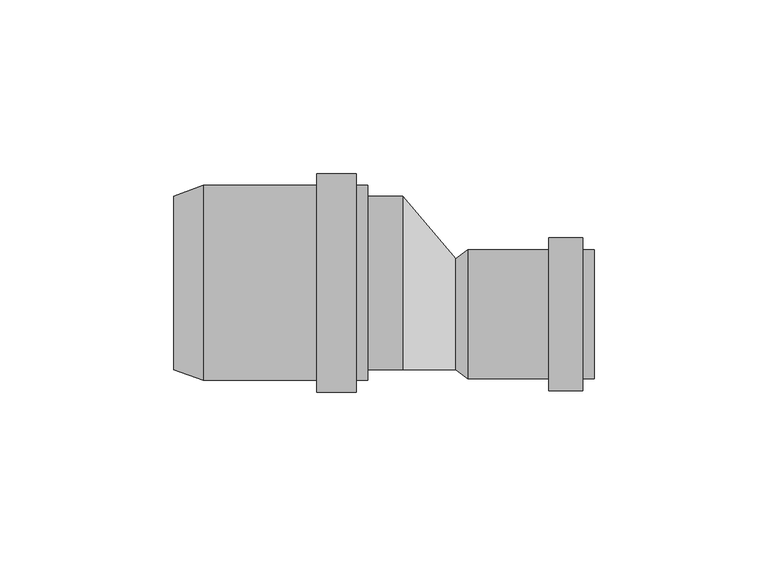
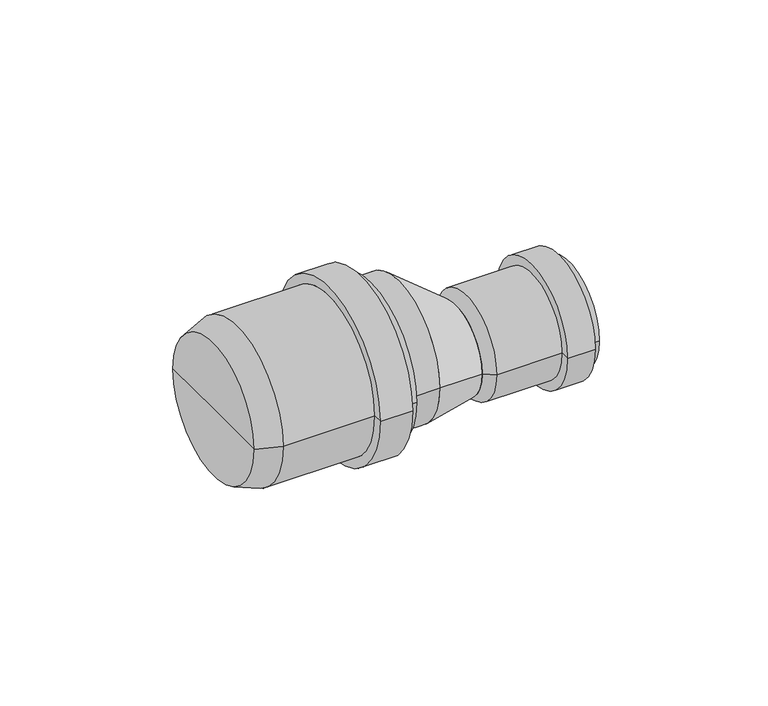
"""IFC4 building model written with IfcOpenShell, lengths in millimetres: pipe fitting geometry, pf_HTR_red-nes-dlouha : pf_HTR_red-nes-dlouha."""

from ifc_helpers import new_model, si_unit, point, frame, origin, origin_2d, place, context, project, spatial, polyline, circle_curve, trimmed, segment, composite_curve, outline, extrude, source, transform, mapped, element, save
from ifc_brep_helpers import plane_surface, cylinder_surface, revolved_surface, spline_surface, advanced_brep


def pipe_fitting_33424f75(model_context):
    return source(origin(), model_context, "Body", "SolidModel", [
        advanced_brep(
        [(-66.0, -25.0, 0.0), (-66.0, 25.0, 0.0), (-57.5, 28.1, 0.0), (-57.5, -28.1, 0.0), (-66.0, 0.0, 0.0), (-10.0, -28.1, 0.0), (-10.0, 28.1, 0.0), (-10.0, 0.0, 0.0), (-13.4, -28.1, 0.0), (-13.4, 28.1, 0.0), (-13.4, -31.5, 0.0), (-13.4, 31.5, 0.0), (-24.8, -31.5, 0.0), (-24.8, 31.5, 0.0), (-24.8, -28.1, 0.0), (-24.8, 28.1, 0.0)],
        [
            (0, 1, circle_curve(frame((-66.0, 0.0, 0.0), z_axis=(1.0, 0.0, 0.0), x_axis=(0.0, 1.0, 0.0)), 25.0)),
            (1, 2),
            (2, 3, circle_curve(frame((-57.5, 0.0, 0.0), z_axis=(-1.0, 0.0, 0.0), x_axis=(0.0, 1.0, 0.0)), 28.1)),
            (3, 0),
            (1, 0, circle_curve(frame((-66.0, 0.0, 0.0), z_axis=(1.0, 0.0, 0.0), x_axis=(0.0, 1.0, 0.0)), 25.0)),
            (3, 2, circle_curve(frame((-57.5, 0.0, 0.0), z_axis=(-1.0, 0.0, 0.0), x_axis=(0.0, 1.0, 0.0)), 28.1)),
            (4, 1),
            (0, 4),
            (5, 6, circle_curve(frame((-10.0, 0.0, 0.0), z_axis=(1.0, 0.0, 0.0), x_axis=(0.0, 1.0, 0.0)), 28.1)),
            (6, 7),
            (7, 5),
            (6, 5, circle_curve(frame((-10.0, 0.0, 0.0), z_axis=(1.0, 0.0, 0.0), x_axis=(0.0, 1.0, 0.0)), 28.1)),
            (8, 9, circle_curve(frame((-13.4, 0.0, 0.0), z_axis=(1.0, 0.0, 0.0), x_axis=(0.0, 1.0, 0.0)), 28.1)),
            (9, 6),
            (5, 8),
            (9, 8, circle_curve(frame((-13.4, 0.0, 0.0), z_axis=(1.0, 0.0, 0.0), x_axis=(0.0, 1.0, 0.0)), 28.1)),
            (10, 11, circle_curve(frame((-13.4, 0.0, 0.0), z_axis=(1.0, 0.0, 0.0), x_axis=(0.0, 1.0, 0.0)), 31.5)),
            (11, 9),
            (8, 10),
            (11, 10, circle_curve(frame((-13.4, 0.0, 0.0), z_axis=(1.0, 0.0, 0.0), x_axis=(0.0, 1.0, 0.0)), 31.5)),
            (12, 13, circle_curve(frame((-24.8, 0.0, 0.0), z_axis=(1.0, 0.0, 0.0), x_axis=(0.0, 1.0, 0.0)), 31.5)),
            (13, 11),
            (10, 12),
            (13, 12, circle_curve(frame((-24.8, 0.0, 0.0), z_axis=(1.0, 0.0, 0.0), x_axis=(0.0, 1.0, 0.0)), 31.5)),
            (14, 15, circle_curve(frame((-24.8, 0.0, 0.0), z_axis=(1.0, 0.0, 0.0), x_axis=(0.0, 1.0, 0.0)), 28.1)),
            (15, 13),
            (12, 14),
            (15, 14, circle_curve(frame((-24.8, 0.0, 0.0), z_axis=(1.0, 0.0, 0.0), x_axis=(0.0, 1.0, 0.0)), 28.1)),
            (2, 15),
            (14, 3),
        ],
        [
            revolved_surface(polyline([(-57.5, 28.1, 0.0), (-66.0, 25.0, 0.0)]), (-66.0, 0.0, 0.0), (-1.0, 0.0, 0.0)),
            plane_surface(frame((-66.0, 0.0, 0.0), z_axis=(-1.0, 0.0, 0.0), x_axis=(0.0, 1.0, 0.0))),
            plane_surface(frame((-10.0, 0.0, 0.0), z_axis=(1.0, 0.0, 0.0), x_axis=(0.0, 1.0, 0.0))),
            cylinder_surface(frame((-66.0, 0.0, 0.0), z_axis=(-1.0, 0.0, 0.0), x_axis=(0.0, 1.0, 0.0)), 28.1),
            plane_surface(frame((-13.4, 0.0, 0.0), z_axis=(1.0, 0.0, 0.0), x_axis=(0.0, 1.0, 0.0))),
            cylinder_surface(frame((-66.0, 0.0, 0.0), z_axis=(-1.0, 0.0, 0.0), x_axis=(0.0, 1.0, 0.0)), 31.5),
            plane_surface(frame((-24.8, 0.0, 0.0), z_axis=(-1.0, 0.0, 0.0), x_axis=(0.0, 1.0, 0.0))),
        ],
        [
            (0, [[1, 2, 3, 4]]),
            (0, [[5, -4, 6, -2]]),
            (1, [[7, -1, 8]]),
            (1, [[-8, -5, -7]]),
            (2, [[9, 10, 11]]),
            (2, [[12, -11, -10]]),
            (3, [[13, 14, -9, 15]]),
            (3, [[16, -15, -12, -14]]),
            (4, [[17, 18, -13, 19]]),
            (4, [[20, -19, -16, -18]]),
            (5, [[21, 22, -17, 23]]),
            (5, [[24, -23, -20, -22]]),
            (6, [[25, 26, -21, 27]]),
            (6, [[28, -27, -24, -26]]),
            (3, [[-3, 29, -25, 30]]),
            (3, [[-6, -30, -28, -29]]),
        ],
    ),
        advanced_brep(
        [(15.25, -25.0, 0.0), (15.25, 7.0, 0.0), (18.75, 9.6, 0.0), (18.75, -27.6, 0.0), (15.25, -9.0, 0.0), (55.25, -27.6, 0.0), (55.25, 9.6, 0.0), (55.25, -9.0, 0.0), (51.85, -27.6, 0.0), (51.85, 9.6, 0.0), (51.85, -31.0, 0.0), (51.85, 13.0, 0.0), (42.15, -31.0, 0.0), (42.15, 13.0, 0.0), (42.15, -27.6, 0.0), (42.15, 9.6, 0.0)],
        [
            (0, 1, circle_curve(frame((15.25, -9.0, 0.0), z_axis=(1.0, 0.0, 0.0), x_axis=(0.0, 1.0, 0.0)), 16.0)),
            (1, 2),
            (2, 3, circle_curve(frame((18.75, -9.0, 0.0), z_axis=(-1.0, 0.0, 0.0), x_axis=(0.0, 1.0, 0.0)), 18.6)),
            (3, 0),
            (1, 0, circle_curve(frame((15.25, -9.0, 0.0), z_axis=(1.0, 0.0, 0.0), x_axis=(0.0, 1.0, 0.0)), 16.0)),
            (3, 2, circle_curve(frame((18.75, -9.0, 0.0), z_axis=(-1.0, 0.0, 0.0), x_axis=(0.0, 1.0, 0.0)), 18.6)),
            (4, 1),
            (0, 4),
            (5, 6, circle_curve(frame((55.25, -9.0, 0.0), z_axis=(1.0, 0.0, 0.0), x_axis=(0.0, 1.0, 0.0)), 18.6)),
            (6, 7),
            (7, 5),
            (6, 5, circle_curve(frame((55.25, -9.0, 0.0), z_axis=(1.0, 0.0, 0.0), x_axis=(0.0, 1.0, 0.0)), 18.6)),
            (8, 9, circle_curve(frame((51.85, -9.0, 0.0), z_axis=(1.0, 0.0, 0.0), x_axis=(0.0, 1.0, 0.0)), 18.6)),
            (9, 6),
            (5, 8),
            (9, 8, circle_curve(frame((51.85, -9.0, 0.0), z_axis=(1.0, 0.0, 0.0), x_axis=(0.0, 1.0, 0.0)), 18.6)),
            (10, 11, circle_curve(frame((51.85, -9.0, 0.0), z_axis=(1.0, 0.0, 0.0), x_axis=(0.0, 1.0, 0.0)), 22.0)),
            (11, 9),
            (8, 10),
            (11, 10, circle_curve(frame((51.85, -9.0, 0.0), z_axis=(1.0, 0.0, 0.0), x_axis=(0.0, 1.0, 0.0)), 22.0)),
            (12, 13, circle_curve(frame((42.15, -9.0, 0.0), z_axis=(1.0, 0.0, 0.0), x_axis=(0.0, 1.0, 0.0)), 22.0)),
            (13, 11),
            (10, 12),
            (13, 12, circle_curve(frame((42.15, -9.0, 0.0), z_axis=(1.0, 0.0, 0.0), x_axis=(0.0, 1.0, 0.0)), 22.0)),
            (14, 15, circle_curve(frame((42.15, -9.0, 0.0), z_axis=(1.0, 0.0, 0.0), x_axis=(0.0, 1.0, 0.0)), 18.6)),
            (15, 13),
            (12, 14),
            (15, 14, circle_curve(frame((42.15, -9.0, 0.0), z_axis=(1.0, 0.0, 0.0), x_axis=(0.0, 1.0, 0.0)), 18.6)),
            (2, 15),
            (14, 3),
        ],
        [
            revolved_surface(polyline([(18.75, 9.6, 0.0), (15.25, 7.0, 0.0)]), (15.25, -9.0, 0.0), (-1.0, 0.0, 0.0)),
            plane_surface(frame((15.25, -9.0, 0.0), z_axis=(-1.0, 0.0, 0.0), x_axis=(0.0, 1.0, 0.0))),
            plane_surface(frame((55.25, -9.0, 0.0), z_axis=(1.0, 0.0, 0.0), x_axis=(0.0, 1.0, 0.0))),
            cylinder_surface(frame((15.25, -9.0, 0.0), z_axis=(-1.0, 0.0, 0.0), x_axis=(0.0, 1.0, 0.0)), 18.6),
            plane_surface(frame((51.85, -9.0, 0.0), z_axis=(1.0, 0.0, 0.0), x_axis=(0.0, 1.0, 0.0))),
            cylinder_surface(frame((15.25, -9.0, 0.0), z_axis=(-1.0, 0.0, 0.0), x_axis=(0.0, 1.0, 0.0)), 22.0),
            plane_surface(frame((42.15, -9.0, 0.0), z_axis=(-1.0, 0.0, 0.0), x_axis=(0.0, 1.0, 0.0))),
        ],
        [
            (0, [[1, 2, 3, 4]]),
            (0, [[5, -4, 6, -2]]),
            (1, [[7, -1, 8]]),
            (1, [[-8, -5, -7]]),
            (2, [[9, 10, 11]]),
            (2, [[12, -11, -10]]),
            (3, [[13, 14, -9, 15]]),
            (3, [[16, -15, -12, -14]]),
            (4, [[17, 18, -13, 19]]),
            (4, [[20, -19, -16, -18]]),
            (5, [[21, 22, -17, 23]]),
            (5, [[24, -23, -20, -22]]),
            (6, [[25, 26, -21, 27]]),
            (6, [[28, -27, -24, -26]]),
            (3, [[-3, 29, -25, 30]]),
            (3, [[-6, -30, -28, -29]]),
        ],
    ),
        extrude(outline(composite_curve([segment(trimmed(circle_curve(origin_2d(), 25.0), [point((-25.0, 0.0))], [point((25.0, 0.0))], False, "CARTESIAN"), True, "CONTINUOUS"), segment(trimmed(circle_curve(origin_2d(), 25.0), [point((25.0, 0.0))], [point((-25.0, 0.0))], False, "CARTESIAN"), True, "CONTINUOUS")], self_intersect=False)), frame((-10.0, 0.0, 0.0), z_axis=(1.0, 0.0, 0.0), x_axis=(0.0, 1.0, 0.0)), (0.0, 0.0, 1.0), 10.0),
        advanced_brep(
        [(15.25, -25.0, 0.0), (15.25, 7.0, 0.0), (0.0, -25.0, 0.0), (0.0, 25.0, 0.0)],
        [
            (0, 1, circle_curve(frame((15.25, -9.0, 0.0), z_axis=(1.0, 0.0, 0.0), x_axis=(0.0, 1.0, 0.0)), 16.0)),
            (1, 0, circle_curve(frame((15.25, -9.0, 0.0), z_axis=(1.0, 0.0, 0.0), x_axis=(0.0, 1.0, 0.0)), 16.0)),
            (2, 3, circle_curve(frame((0.0, 0.0, 0.0), z_axis=(-1.0, 0.0, 0.0), x_axis=(0.0, 1.0, 0.0)), 25.0)),
            (3, 2, circle_curve(frame((0.0, 0.0, 0.0), z_axis=(-1.0, 0.0, 0.0), x_axis=(0.0, 1.0, 0.0)), 25.0)),
            (3, 1),
            (0, 2),
        ],
        [
            plane_surface(frame((15.25, -9.0, 0.0), z_axis=(1.0, 0.0, 0.0), x_axis=(0.0, 0.0, -1.0))),
            plane_surface(frame((0.0, 0.0, 0.0), z_axis=(-1.0, 0.0, 0.0), x_axis=(0.0, 0.0, -1.0))),
            spline_surface(2, 1, [[(0.0, -25.0, 0.0), (15.25, -25.0, 0.0)], [(0.0, -25.0, -25.0), (15.25, -25.0, -16.0)], [(0.0, 0.0, -25.0), (15.25, -9.0, -16.0)], [(0.0, 25.0, -25.0), (15.25, 7.0, -16.0)], [(0.0, 25.0, 0.0), (15.25, 7.0, 0.0)]], [3, 2, 3], [2, 2], [0.0, 1.0, 2.0], [0.0, 1.0], weights=[[1.0, 1.0], [0.7071067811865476, 0.7071067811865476], [1.0, 1.0], [0.7071067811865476, 0.7071067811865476], [1.0, 1.0]]),
            spline_surface(2, 1, [[(0.0, 25.0, 0.0), (15.25, 7.0, 0.0)], [(0.0, 25.0, 25.0), (15.25, 7.0, 16.0)], [(0.0, 0.0, 25.0), (15.25, -9.0, 16.0)], [(0.0, -25.0, 25.0), (15.25, -25.0, 16.0)], [(0.0, -25.0, 0.0), (15.25, -25.0, 0.0)]], [3, 2, 3], [2, 2], [0.0, 1.0, 2.0], [0.0, 1.0], weights=[[1.0, 1.0], [0.7071067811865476, 0.7071067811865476], [1.0, 1.0], [0.7071067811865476, 0.7071067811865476], [1.0, 1.0]]),
        ],
        [
            (0, [[1, 2]]),
            (1, [[3, 4]]),
            (2, [[-4, 5, -1, 6]]),
            (3, [[-3, -6, -2, -5]]),
        ],
    ),
    ])


if __name__ == "__main__":
    model = new_model("IFC4")
    model_context = context("Model", 3, world=origin())
    ifc_project = project(units=[si_unit("LENGTHUNIT", "METRE", prefix="MILLI")], contexts=[model_context])
    site = spatial("IfcSite", under=ifc_project)
    building = spatial("IfcBuilding", under=site)
    placement = place(None, origin())
    pipe_fitting_shape = pipe_fitting_33424f75(model_context)
    element("IfcPipeFitting", 1, ObjectType="pf_HTR_red-nes-dlouha : pf_HTR_red-nes-dlouha", at=placement, inside=building, context=model_context, shape_type="MappedRepresentation", body=[
        mapped(pipe_fitting_shape, transform((0.0, 0.0, 0.0), x_axis=(1.0, 0.0, 0.0), y_axis=(0.0, 1.0, 0.0), z_axis=(0.0, 0.0, 1.0))),
    ])
    save(model, "model.ifc")
